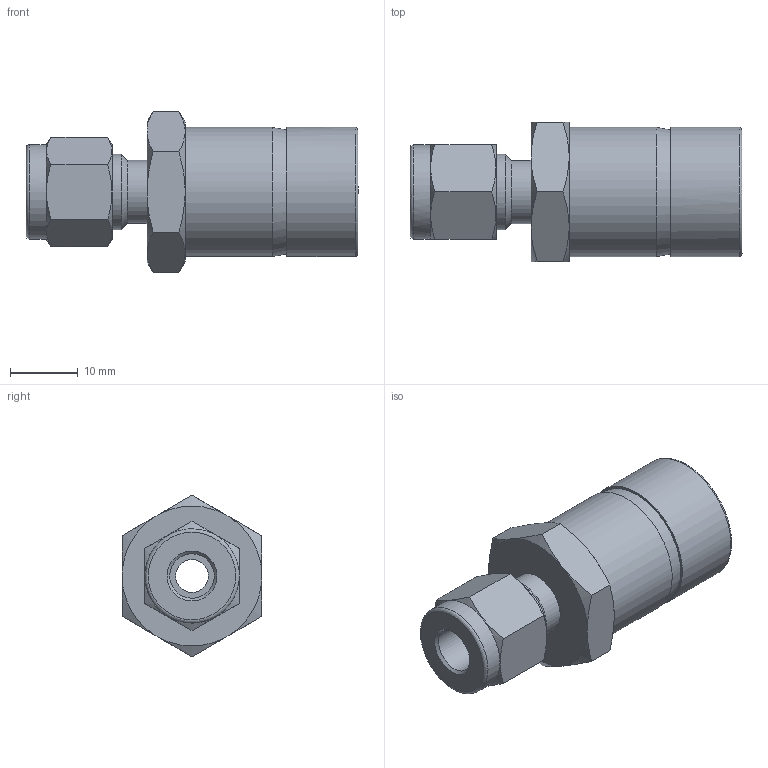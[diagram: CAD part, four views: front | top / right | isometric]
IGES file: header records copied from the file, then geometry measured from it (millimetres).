
Global section: file name: SR-4-12; native system: Autodesk Inventor 2016; preprocessor: unknown; author: DESIGNPC2; date: 20151111.172146; units: millimetre
Bounding box: 48.95 x 20.6 x 23.79 mm (x, y, z)
Volume: 6611.3 mm3; surface area: 5108.5 mm2
Topology: 1 solids, 1 shells, 47 faces, 134 edges, 94 vertices
Faces by surface type: bspline 47
